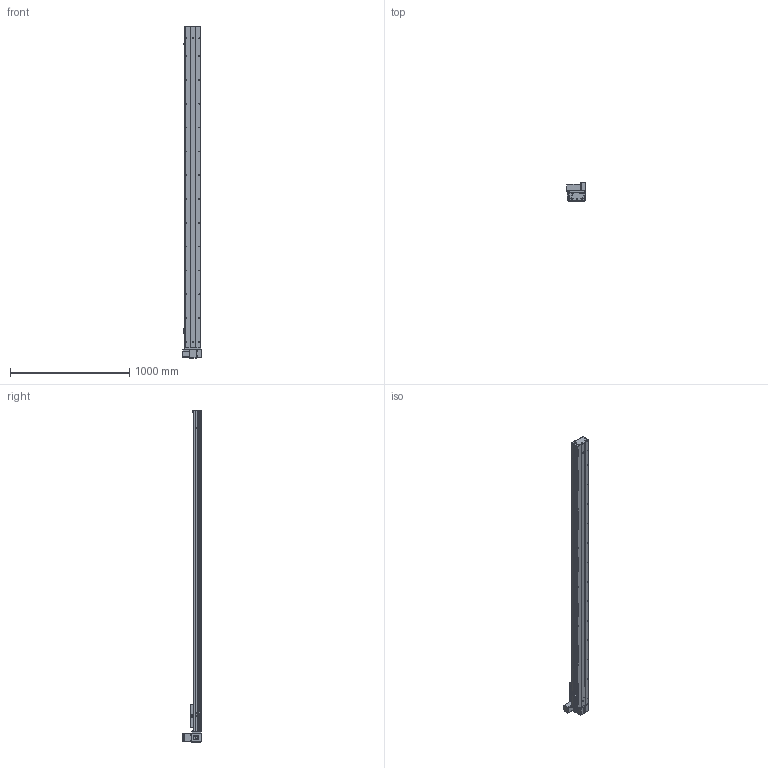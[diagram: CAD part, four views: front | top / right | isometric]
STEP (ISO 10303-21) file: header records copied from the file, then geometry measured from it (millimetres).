
FILE_DESCRIPTION (( 'STEP AP203' ), '1' );
FILE_NAME ('Y135CB-D90-S2400-UL-P400W.STEP', '2020-02-18T08:02:17', ( '微软用户' ), ( '微软中国' ), 'SwSTEP 2.0', 'SolidWorks 2017', '' );
FILE_SCHEMA (( 'CONFIG_CONTROL_DESIGN' ));
Length unit declared in the file: millimetre
Products named in the file (18): Y10B-耜蚾蟀諉啣----; san松下电机400不带刹车----; 00B-俋欶BM--; 5CB --掛极耜裔啣-; Y10B--々湍喘謫眊--666; C-詩湍揤踡え-陔; Y135CB-耜裔; Y135CB-D90-S2400-UL-P400W; 135CB--詩湍-CE; 135CB---遴掛极.-; Y100-135俋离換覜ん--; 35CB---喘謫眊楊擘啣; Y135C-陔俋离換覜結え-; 0B-埴倛裔啣; 5C--俋欶; 0B-源倛裔啣; C-雄赽釱--; 0B-萇儂楊擘啣
Assembly tree (21 placements, depth 2):
  Y135CB-D90-S2400-UL-P400W
    Y135CB-耜裔
    135CB---遴掛极.-
    35CB---喘謫眊楊擘啣
    0B-埴倛裔啣
    0B-源倛裔啣
    0B-萇儂楊擘啣
    san松下电机400不带刹车----
    5CB --掛极耜裔啣-  x2
    C-詩湍揤踡え-陔  x2
    135CB--詩湍-CE
    Y100-135俋离換覜ん--  x3
    Y135C-陔俋离換覜結え-
    5C--俋欶
    C-雄赽釱--
    Y10B-耜蚾蟀諉啣----
    00B-俋欶BM--
    Y10B--々湍喘謫眊--666
Bounding box: 157 x 158.7 x 2788 mm (x, y, z)
Volume: 8022128.4 mm3; surface area: 3175751.1 mm2
Topology: 21 solids, 21 shells, 973 faces, 2653 edges, 1758 vertices
Faces by surface type: cylinder 501, plane 456, cone 16
Entity records: 30763 total; most frequent: CARTESIAN_POINT 5120, DIRECTION 5113, ORIENTED_EDGE 4782, EDGE_CURVE 2391, AXIS2_PLACEMENT_3D 1875, VERTEX_POINT 1586, VECTOR 1363, LINE 1363
